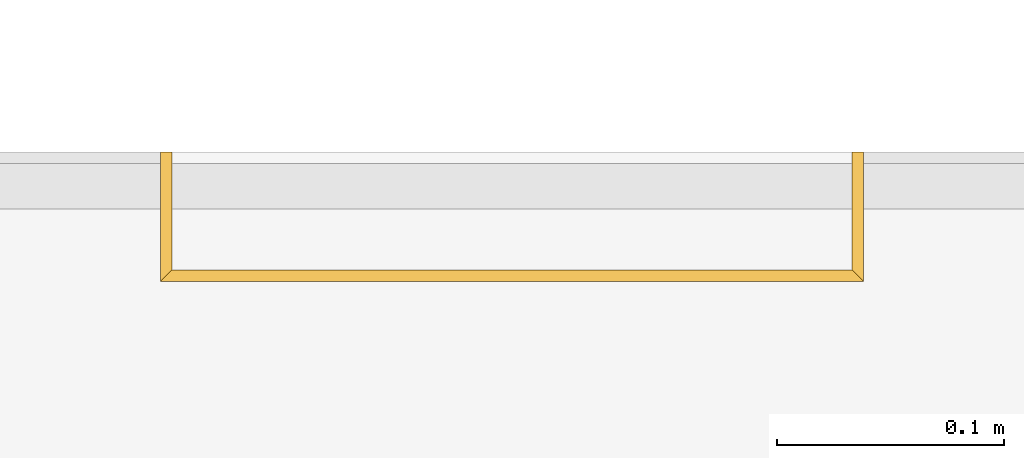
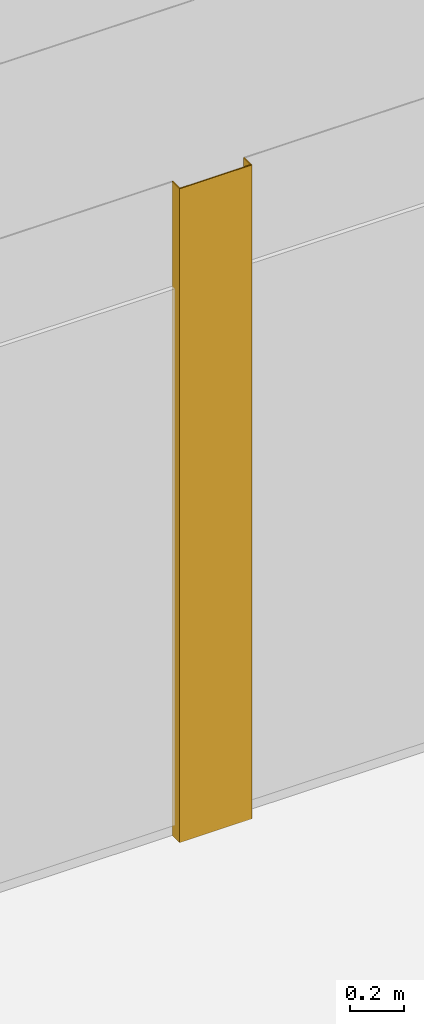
# One storey, part 9 of 16: 3 coverings.
"""IFC2X3 building model written with IfcOpenShell, lengths in millimetres."""

from ifc_helpers import new_model, entity, si_unit, converted_unit, derived_unit, money_unit, direction, frame, origin_with_axes, place, context, subcontext, project, spatial, polyline, outline, extrude, material, type_object, element, save


model = new_model("IFC2X3")

# Units and contexts
model_context = context("Model", 3, precision=0.01, world=origin_with_axes(), true_north=direction((0.0, 1.0)))
body_context = subcontext(model_context, "Body", "Model", "MODEL_VIEW")
ifc_project = project(units=[si_unit("LENGTHUNIT", "METRE", prefix="MILLI"), si_unit("AREAUNIT", "SQUARE_METRE"), si_unit("VOLUMEUNIT", "CUBIC_METRE"), converted_unit("PLANEANGLEUNIT", "DEGREE", entity("IfcPlaneAngleMeasure", 0.0174532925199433), si_unit("PLANEANGLEUNIT", "RADIAN"), dimensions=[0, 0, 0, 0, 0, 0, 0]), money_unit("EUR"), converted_unit("TIMEUNIT", "Year", entity("IfcTimeMeasure", 31556926.0), si_unit("TIMEUNIT", "SECOND"), dimensions=[0, 0, 1, 0, 0, 0, 0]), si_unit("MASSUNIT", "GRAM", prefix="KILO"), si_unit("THERMODYNAMICTEMPERATUREUNIT", "DEGREE_CELSIUS"), si_unit("LUMINOUSINTENSITYUNIT", "LUMEN"), si_unit("ENERGYUNIT", "JOULE", prefix="MEGA"), derived_unit("THERMALCONDUCTANCEUNIT", [(si_unit("POWERUNIT", "WATT"), 1), (si_unit("LENGTHUNIT", "METRE"), -1), (si_unit("THERMODYNAMICTEMPERATUREUNIT", "KELVIN"), -1)]), derived_unit("SPECIFICHEATCAPACITYUNIT", [(si_unit("ENERGYUNIT", "JOULE"), 1), (si_unit("MASSUNIT", "GRAM", prefix="KILO"), -1), (si_unit("THERMODYNAMICTEMPERATUREUNIT", "KELVIN"), -1)]), derived_unit("MASSDENSITYUNIT", [(si_unit("MASSUNIT", "GRAM", prefix="KILO"), 1), (si_unit("VOLUMEUNIT", "CUBIC_METRE"), -1)])], contexts=[model_context])

# Site, building, storey
site_placement = place(None, origin_with_axes())
site = spatial("IfcSite", under=ifc_project, at=site_placement, Name="Paldiski mnt 245/1, Tallinn, Harjumaa", CompositionType="COMPLEX")
building_placement = place(site_placement, origin_with_axes())
building = spatial("IfcBuilding", under=site, at=building_placement, Name="RKAS Hoone üldnimetus (kasutust iseloomustav) -> IFC Project Manager -> SOLIBRI", CompositionType="ELEMENT")
storey_placement = place(building_placement, frame((0.0, 0.0, 3300.0), z_axis=(0.0, 0.0, 1.0), x_axis=(1.0, 0.0, 0.0)))
storey = spatial("IfcBuildingStorey", under=building, at=storey_placement, Name="Teine korrus", CompositionType="ELEMENT", Elevation=3300.0)

# Coverings
ifc_material = material(Name="SA- Värv SM10(tumehall)")
covering_type = type_object("IfcCoveringType", Name="SA- Värv SM10(tumehall) 5", PredefinedType="CLADDING")
covering_1_placement = place(storey_placement, frame((-29610.00000000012, -6479.999999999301, 0.0), z_axis=(0.0, 0.0, 1.0), x_axis=(4.985190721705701e-06, 0.9999999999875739, 0.0)))
element("IfcCovering", 1, at=covering_1_placement, inside=storey, type_object=covering_type, material=ifc_material, Name="SM10", PredefinedType="CLADDING", context=body_context, shape_type="SweptSolid", body=[
    extrude(outline(polyline([(0.0, 0.0), (52.0000000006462, 0.0), (51.99997507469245, 5.000000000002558), (-5.000024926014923, 5.000000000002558), (0.0, 0.0)])), origin_with_axes(), (0.0, 0.0, 1.0), 2950.0),
])
covering_2_placement = place(storey_placement, frame((-29310.00006403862, -6427.999999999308, 0.0), z_axis=(0.0, 0.0, 1.0), x_axis=(1.231509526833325e-06, -0.9999999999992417, 0.0)))
element("IfcCovering", 2, at=covering_2_placement, inside=storey, type_object=covering_type, material=ifc_material, Name="SM10", PredefinedType="CLADDING", context=body_context, shape_type="SweptSolid", body=[
    extrude(outline(polyline([(0.0, 0.0), (52.00000000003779, 0.0), (57.00000615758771, 5.000000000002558), (6.157547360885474e-06, 4.999999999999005), (0.0, 0.0)])), origin_with_axes(), (0.0, 0.0, 1.0), 2950.0),
])
covering_3_placement = place(storey_placement, frame((-29310.00000000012, -6479.999999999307, 0.0), z_axis=(0.0, 0.0, 1.0), x_axis=(-1.0, 0.0, 0.0)))
element("IfcCovering", 3, at=covering_3_placement, inside=storey, type_object=covering_type, material=ifc_material, Name="SM10", PredefinedType="CLADDING", context=body_context, shape_type="SweptSolid", body=[
    extrude(outline(polyline([(0.0, 0.0), (299.9999999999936, 0.0), (305.000024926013, 4.999999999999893), (-5.000006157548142, 4.999999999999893), (0.0, 0.0)])), origin_with_axes(), (0.0, 0.0, 1.0), 2950.0),
])

save(model, "model.ifc")
